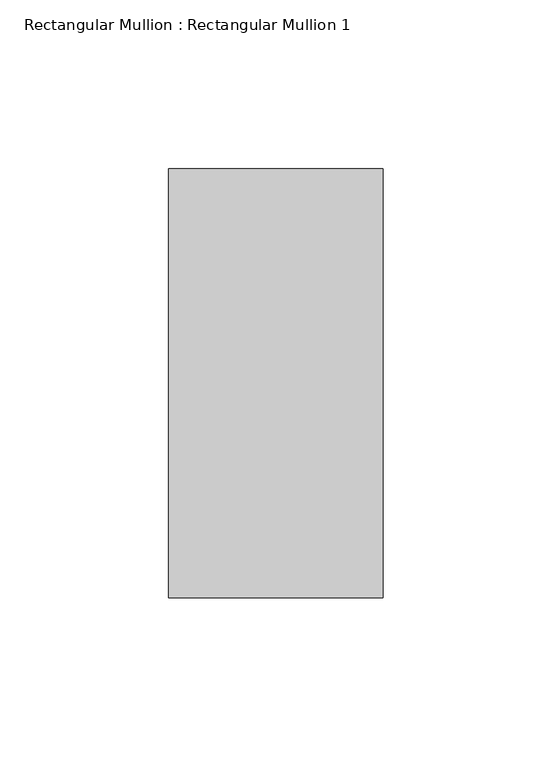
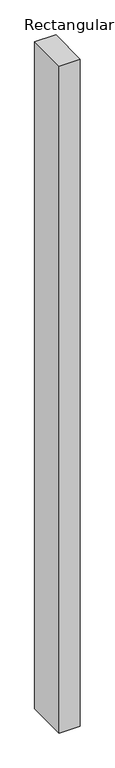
"""IFC4 building model written with IfcOpenShell, lengths in millimetres: member geometry, Rectangular Mullion : Rectangular Mullion 1."""

from ifc_helpers import new_model, si_unit, frame, origin, place, context, project, spatial, polyline, outline, extrude, source, transform, mapped, element, save


def rectangular_mullion_rectangular_mullion_1_455339bc(model_context):
    return source(origin(), model_context, "Body", "SweptSolid", [
        extrude(outline(polyline([(31.75, 63.5), (31.75, -63.5), (-31.75, -63.5), (-31.75, 63.5), (31.75, 63.5)])), frame((0.0, 0.0, -2116.8895883), z_axis=(0.0, 0.0, 1.0), x_axis=(1.0, 0.0, 0.0)), (0.0, 0.0, 1.0), 2116.8895883),
    ])


if __name__ == "__main__":
    model = new_model("IFC4")
    model_context = context("Model", 3, world=origin())
    ifc_project = project(units=[si_unit("LENGTHUNIT", "METRE", prefix="MILLI")], contexts=[model_context])
    site = spatial("IfcSite", under=ifc_project)
    building = spatial("IfcBuilding", under=site)
    placement = place(None, origin())
    rectangular_mullion_rectangular_mullion_1_shape = rectangular_mullion_rectangular_mullion_1_455339bc(model_context)
    element("IfcMember", 1, ObjectType="Rectangular Mullion : Rectangular Mullion 1", at=placement, inside=building, context=model_context, shape_type="MappedRepresentation", body=[
        mapped(rectangular_mullion_rectangular_mullion_1_shape, transform((0.0, 0.0, 0.0), x_axis=(1.0, 0.0, 0.0), y_axis=(0.0, 1.0, 0.0), z_axis=(0.0, 0.0, 1.0))),
    ])
    save(model, "model.ifc")
